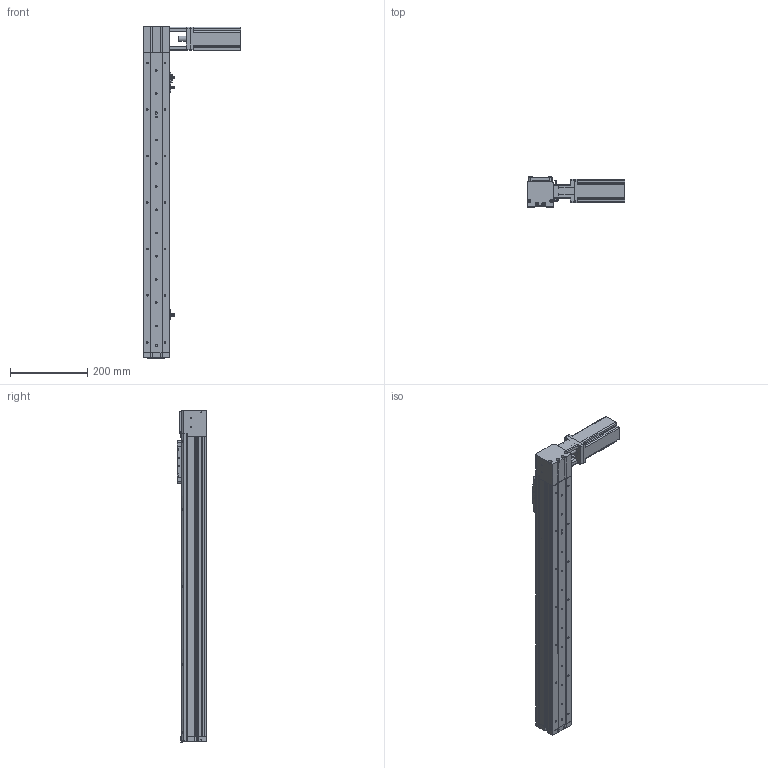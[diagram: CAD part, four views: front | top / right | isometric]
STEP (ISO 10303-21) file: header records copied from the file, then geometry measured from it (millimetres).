
FILE_DESCRIPTION (( 'STEP AP214' ), '1' );
FILE_NAME ('KSD68BS-S600-MRT-CR.STEP', '2019-08-27T07:02:57', ( '微软用户' ), ( '微软中国' ), 'SwSTEP 2.0', 'SolidWorks 2014', '' );
FILE_SCHEMA (( 'AUTOMOTIVE_DESIGN' ));
Length unit declared in the file: millimetre
Products named in the file (13): KSD68BS-S600-MRT-CR; KSD68BS 600行程底板全封闭; 台达ECMA－C20604AS伺服电机（400W); U倰嫖萇EEㄜSX672; 感应片68宽全封闭; 68单导轨全封闭同步带安装板; 68单导轨全封闭同步带电机座左; 68宽单导轨全封闭同步带端板; KSD68BS 600行程侧板全封闭; 68宽单导轨全封闭丝杆传动安装板1防护罩; 68遵裔啣揤啣1; KSD68BS 600行程盖板全封闭; 100遵鎮湛假蚾啣1
Assembly tree (16 placements, depth 2):
  KSD68BS-S600-MRT-CR
    KSD68BS 600行程底板全封闭
    台达ECMA－C20604AS伺服电机（400W)
    U倰嫖萇EEㄜSX672  x3
    感应片68宽全封闭
    68单导轨全封闭同步带安装板
    68单导轨全封闭同步带电机座左
    68宽单导轨全封闭同步带端板
    KSD68BS 600行程侧板全封闭  x2
    68宽单导轨全封闭丝杆传动安装板1防护罩
    68遵裔啣揤啣1  x2
    KSD68BS 600行程盖板全封闭
    100遵鎮湛假蚾啣1
Bounding box: 252.7 x 77 x 858.1 mm (x, y, z)
Volume: 1946086.5 mm3; surface area: 679564.6 mm2
Topology: 17 solids, 17 shells, 1381 faces, 3906 edges, 2502 vertices
Faces by surface type: cylinder 635, plane 598, cone 148
Entity records: 43206 total; most frequent: CARTESIAN_POINT 7341, DIRECTION 6435, ORIENTED_EDGE 6164, EDGE_CURVE 3082, AXIS2_PLACEMENT_3D 2308, VERTEX_POINT 2020, VECTOR 1819, LINE 1819
